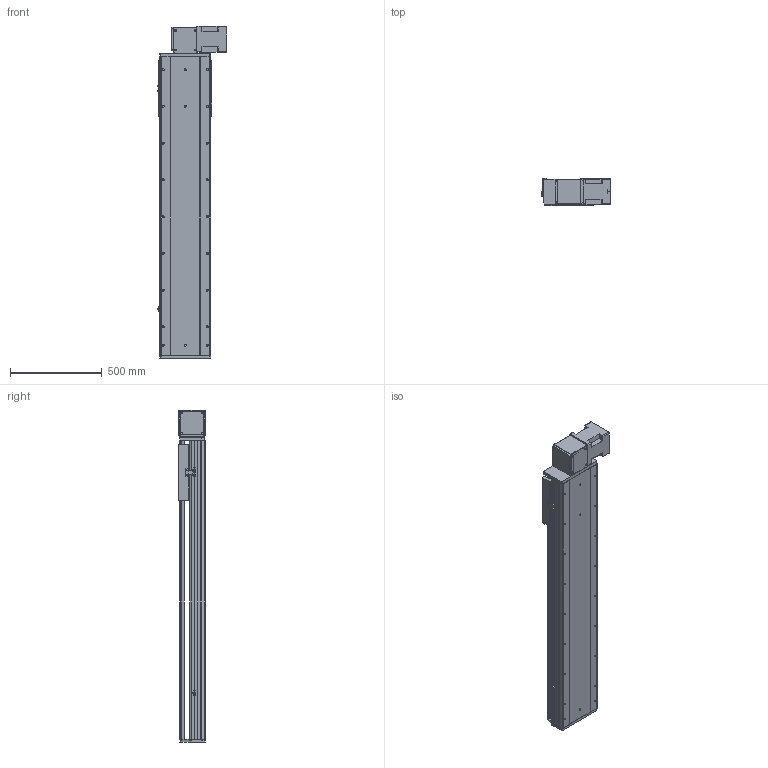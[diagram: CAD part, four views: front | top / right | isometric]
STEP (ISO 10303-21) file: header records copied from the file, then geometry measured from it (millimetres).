
FILE_DESCRIPTION (( 'STEP AP214' ), '1' );
FILE_NAME ('RTB28S-XX-1200-BL-M100-XX-C4.STEP', '2025-12-22T02:21:02', ( '' ), ( '' ), 'SwSTEP 2.0', 'SolidWorks 2018', '' );
FILE_SCHEMA (( 'AUTOMOTIVE_DESIGN' ));
Length unit declared in the file: millimetre
Products named in the file (4): RTB28S-XX-1200-BL-M100-XX-C4; RTB28S-GY-011^RTB28S-XX-XX-BL-M100-XX-C4; RTB28S-GY-008^RTB28S-XX-XX-BL-M100-XX-C4; RTB28S-GY-004^RTB28S-XX-XX-BL-M100-XX-C4
Assembly tree (3 placements, depth 2):
  RTB28S-XX-1200-BL-M100-XX-C4
    RTB28S-GY-011^RTB28S-XX-XX-BL-M100-XX-C4
    RTB28S-GY-004^RTB28S-XX-XX-BL-M100-XX-C4
    RTB28S-GY-008^RTB28S-XX-XX-BL-M100-XX-C4
Bounding box: 380.7 x 145 x 1807 mm (x, y, z)
Volume: 32761100.6 mm3; surface area: 3146233.5 mm2
Topology: 3 solids, 4 shells, 798 faces, 2118 edges, 1348 vertices
Faces by surface type: cylinder 367, plane 347, cone 80, torus 4
Entity records: 29999 total; most frequent: CARTESIAN_POINT 5152, DIRECTION 4488, ORIENTED_EDGE 4172, EDGE_CURVE 2086, AXIS2_PLACEMENT_3D 1624, VERTEX_POINT 1348, VECTOR 1240, LINE 1240
